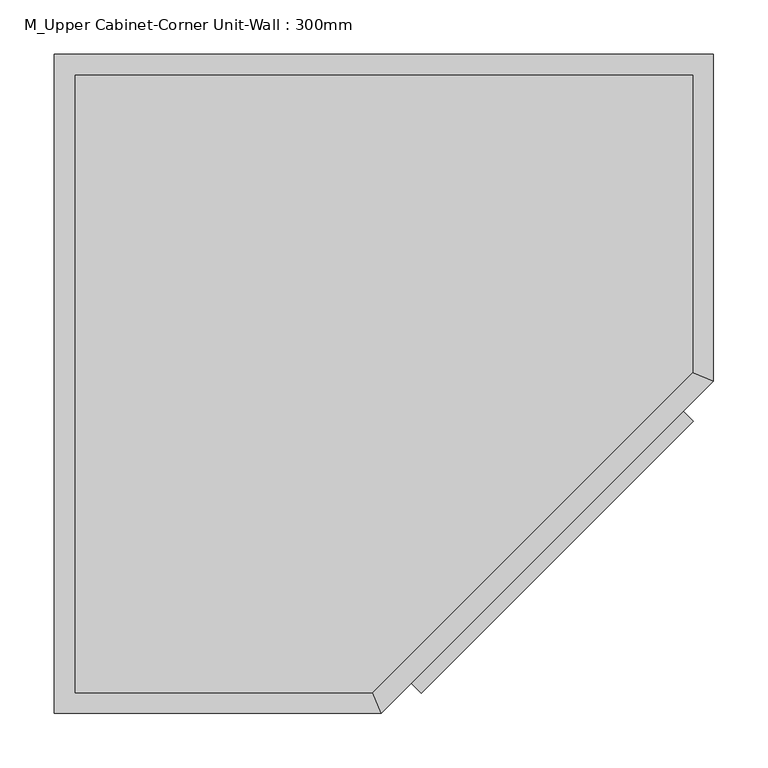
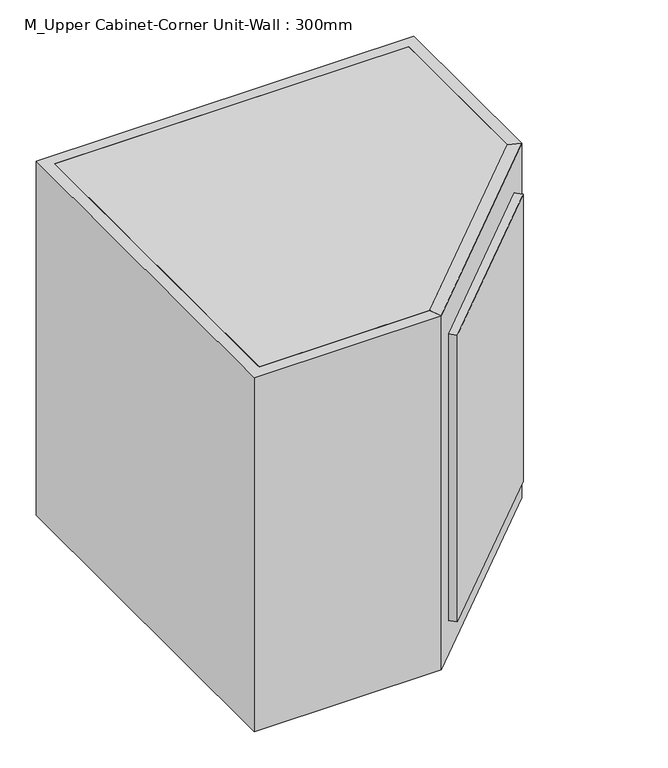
"""IFC4 building model written with IfcOpenShell, lengths in millimetres: furniture geometry, M_Upper Cabinet-Corner Unit-Wall : 300mm."""

from ifc_helpers import new_model, si_unit, frame, origin, place, context, project, spatial, polyline, outline, extrude, faceted_brep, source, transform, mapped, element, save


def m_upper_cabinet_corner_unit_wall_300mm_3086bc04(model_context):
    return source(origin(), model_context, "Body", "SolidModel", [
        extrude(outline(polyline([(295.0625715, -686.0691036), (277.1020592, -668.1085913), (526.4797541, -418.7308964), (544.4402664, -436.6914087), (295.0625715, -686.0691036)])), frame((0.0, 0.0, 1457.15), z_axis=(0.0, 0.0, 1.0), x_axis=(1.0, 0.0, 0.0)), (0.0, 0.0, 1.0), 485.7),
        faceted_brep([(258.3711628, -704.8, 1400.0), (250.4803944, -685.75, 1400.0), (544.1211628, -392.1092316, 1400.0), (563.1711628, -400.0, 1400.0), (258.3711628, -704.8, 2000.0), (563.1711628, -400.0, 2000.0), (544.1211628, -392.1092316, 2000.0), (250.4803944, -685.75, 2000.0), (535.4600102, -427.7111525, 1942.85), (535.4600102, -427.7111525, 1457.15), (286.0823153, -677.0888475, 1457.15), (286.0823153, -677.0888475, 1942.85), (272.6119312, -663.6184633, 1942.85), (272.6119312, -663.6184633, 1457.15), (521.9896261, -414.2407684, 1457.15), (521.9896261, -414.2407684, 1942.85)], [[[0, 1, 2, 3]], [[4, 5, 6, 7]], [[3, 5, 4, 0], [8, 9, 10, 11]], [[2, 6, 5, 3]], [[1, 7, 6, 2], [12, 13, 14, 15]], [[0, 4, 7, 1]], [[8, 11, 12, 15]], [[10, 9, 14, 13]], [[11, 10, 13, 12]], [[15, 14, 9, 8]]]),
        extrude(outline(polyline([(-22.5788372, -685.75), (-22.5788372, -119.05), (544.1211628, -119.05), (544.1211628, -392.1092316), (250.4803944, -685.75), (-22.5788372, -685.75)])), frame((0.0, 0.0, 1974.6), z_axis=(0.0, 0.0, 1.0), x_axis=(1.0, 0.0, 0.0)), (0.0, 0.0, 1.0), 25.4),
        extrude(outline(polyline([(-22.5788372, -685.75), (-22.5788372, -119.05), (544.1211628, -119.05), (544.1211628, -392.1092316), (250.4803944, -685.75), (-22.5788372, -685.75)])), frame((0.0, 0.0, 1400.0), z_axis=(0.0, 0.0, 1.0), x_axis=(1.0, 0.0, 0.0)), (0.0, 0.0, 1.0), 25.4),
        extrude(outline(polyline([(-41.6288372, -704.8), (-41.6288372, -100.0), (563.1711628, -100.0), (563.1711628, -400.0), (544.1211628, -392.1092316), (544.1211628, -119.05), (-22.5788372, -119.05), (-22.5788372, -685.75), (250.4803944, -685.75), (258.3711628, -704.8), (-41.6288372, -704.8)])), frame((0.0, 0.0, 1400.0), z_axis=(0.0, 0.0, 1.0), x_axis=(1.0, 0.0, 0.0)), (0.0, 0.0, 1.0), 600.0),
    ])


if __name__ == "__main__":
    model = new_model("IFC4")
    model_context = context("Model", 3, world=origin())
    ifc_project = project(units=[si_unit("LENGTHUNIT", "METRE", prefix="MILLI")], contexts=[model_context])
    site = spatial("IfcSite", under=ifc_project)
    building = spatial("IfcBuilding", under=site)
    placement = place(None, origin())
    m_upper_cabinet_corner_unit_wall_300mm_shape = m_upper_cabinet_corner_unit_wall_300mm_3086bc04(model_context)
    element("IfcFurniture", 1, ObjectType="M_Upper Cabinet-Corner Unit-Wall : 300mm", at=placement, inside=building, context=model_context, shape_type="MappedRepresentation", body=[
        mapped(m_upper_cabinet_corner_unit_wall_300mm_shape, transform((0.0, 0.0, 0.0), x_axis=(1.0, 0.0, 0.0), y_axis=(0.0, 1.0, 0.0), z_axis=(0.0, 0.0, 1.0))),
    ])
    save(model, "model.ifc")
